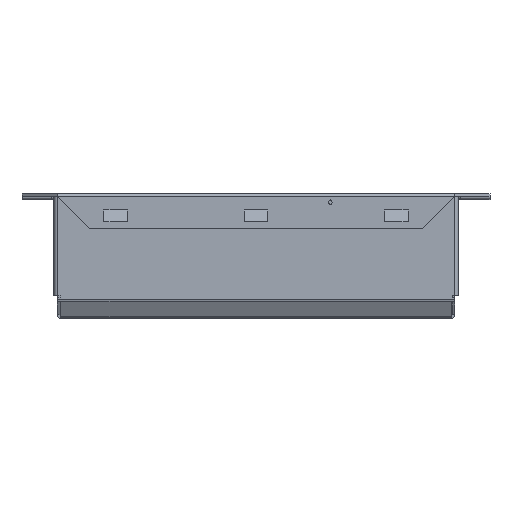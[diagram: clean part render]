
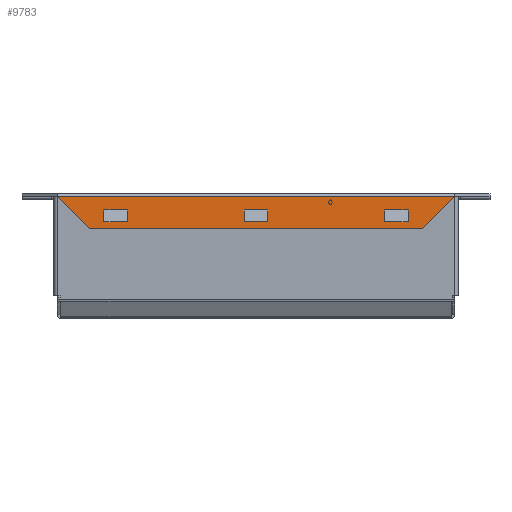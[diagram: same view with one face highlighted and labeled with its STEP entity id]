
A CAD part, front view. The second image highlights one B-rep face of the part: STEP entity #9783.
In plain terms, the highlighted planar face has unit normal (0, -1, 0).
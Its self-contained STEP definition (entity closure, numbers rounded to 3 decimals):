
#19 = VERTEX_POINT ( 'NONE', #6858 ) ;
#20 = VERTEX_POINT ( 'NONE', #6883 ) ;
#43 = VERTEX_POINT ( 'NONE', #6887 ) ;
#78 = EDGE_CURVE ( 'NONE', #20, #43, #6920, .T. ) ;
#105 = VERTEX_POINT ( 'NONE', #6981 ) ;
#236 = CARTESIAN_POINT ( 'NONE',  ( 662.267, -983.303, -4.42 ) ) ;
#1502 = VECTOR ( 'NONE', #1767, 1000. ) ;
#1767 = DIRECTION ( 'NONE',  ( -1., 0., 0. ) ) ;
#1811 = CARTESIAN_POINT ( 'NONE',  ( 681.343, -983.303, -0.787 ) ) ;
#1817 = CARTESIAN_POINT ( 'NONE',  ( 672.631, -983.303, -9.525 ) ) ;
#1824 = CARTESIAN_POINT ( 'NONE',  ( 573.342, -983.303, -0.787 ) ) ;
#1886 = DIRECTION ( 'NONE',  ( 1., 0., 0. ) ) ;
#1887 = VECTOR ( 'NONE', #1886, 1000. ) ;
#1889 = CARTESIAN_POINT ( 'NONE',  ( 681.343, -983.303, -0.787 ) ) ;
#1890 = LINE ( 'NONE', #1889, #1887 ) ;
#1896 = CARTESIAN_POINT ( 'NONE',  ( 573.342, -983.303, -0.813 ) ) ;
#1907 = CARTESIAN_POINT ( 'NONE',  ( 573.342, -983.303, -0.787 ) ) ;
#1908 = LINE ( 'NONE', #1907, #1978 ) ;
#1910 = DIRECTION ( 'NONE',  ( 1., 0., 0. ) ) ;
#1911 = VECTOR ( 'NONE', #1910, 1000. ) ;
#1913 = CARTESIAN_POINT ( 'NONE',  ( 592.417, -983.303, -4.42 ) ) ;
#1914 = LINE ( 'NONE', #1913, #1911 ) ;
#1927 = CARTESIAN_POINT ( 'NONE',  ( 681.343, -983.303, -0.813 ) ) ;
#1962 = DIRECTION ( 'NONE',  ( 1., 0., 0. ) ) ;
#1963 = VECTOR ( 'NONE', #1962, 1000. ) ;
#1964 = CARTESIAN_POINT ( 'NONE',  ( 662.267, -983.303, -4.42 ) ) ;
#1968 = LINE ( 'NONE', #1964, #1963 ) ;
#1977 = DIRECTION ( 'NONE',  ( 0., 0., 1. ) ) ;
#1978 = VECTOR ( 'NONE', #1977, 1000. ) ;
#2020 = VECTOR ( 'NONE', #2031, 1000. ) ;
#2031 = DIRECTION ( 'NONE',  ( 0.707, 0., 0.707 ) ) ;
#2283 = EDGE_CURVE ( 'NONE', #105, #19, #7317, .T. ) ;
#2997 = LINE ( 'NONE', #3043, #3057 ) ;
#3010 = CARTESIAN_POINT ( 'NONE',  ( 586.067, -983.303, -7.595 ) ) ;
#3025 = LINE ( 'NONE', #3093, #3092 ) ;
#3029 = CARTESIAN_POINT ( 'NONE',  ( 586.067, -983.303, -4.42 ) ) ;
#3043 = CARTESIAN_POINT ( 'NONE',  ( 586.067, -983.303, -4.42 ) ) ;
#3051 = CARTESIAN_POINT ( 'NONE',  ( 592.417, -983.303, -4.42 ) ) ;
#3056 = DIRECTION ( 'NONE',  ( 0., 0., 1. ) ) ;
#3057 = VECTOR ( 'NONE', #3056, 1000. ) ;
#3065 = LINE ( 'NONE', #3070, #2020 ) ;
#3070 = CARTESIAN_POINT ( 'NONE',  ( 627.355, -983.303, -54.8 ) ) ;
#3088 = CARTESIAN_POINT ( 'NONE',  ( 592.417, -983.303, -7.595 ) ) ;
#3091 = DIRECTION ( 'NONE',  ( 0., 0., -1. ) ) ;
#3092 = VECTOR ( 'NONE', #3091, 1000. ) ;
#3093 = CARTESIAN_POINT ( 'NONE',  ( 592.417, -983.303, -4.42 ) ) ;
#3126 = LINE ( 'NONE', #3185, #3183 ) ;
#3129 = DIRECTION ( 'NONE',  ( -1., 0., 0. ) ) ;
#3130 = VECTOR ( 'NONE', #3129, 1000. ) ;
#3132 = CARTESIAN_POINT ( 'NONE',  ( 662.267, -983.303, -7.595 ) ) ;
#3133 = LINE ( 'NONE', #3132, #3130 ) ;
#3182 = DIRECTION ( 'NONE',  ( 0., 0., -1. ) ) ;
#3183 = VECTOR ( 'NONE', #3182, 1000. ) ;
#3185 = CARTESIAN_POINT ( 'NONE',  ( 681.343, -983.303, -9.525 ) ) ;
#3305 = CARTESIAN_POINT ( 'NONE',  ( 624.167, -983.303, -7.595 ) ) ;
#3306 = LINE ( 'NONE', #3305, #3330 ) ;
#3327 = CARTESIAN_POINT ( 'NONE',  ( 592.417, -983.303, -7.595 ) ) ;
#3328 = LINE ( 'NONE', #3327, #1502 ) ;
#3329 = DIRECTION ( 'NONE',  ( -1., 0., 0. ) ) ;
#3330 = VECTOR ( 'NONE', #3329, 1000. ) ;
#3332 = DIRECTION ( 'NONE',  ( 1., 0., 0. ) ) ;
#3333 = VECTOR ( 'NONE', #3332, 1000. ) ;
#3334 = CARTESIAN_POINT ( 'NONE',  ( 624.167, -983.303, -4.42 ) ) ;
#3337 = LINE ( 'NONE', #3334, #3333 ) ;
#3373 = DIRECTION ( 'NONE',  ( 0.707, 0., -0.707 ) ) ;
#3374 = VECTOR ( 'NONE', #3373, 1000. ) ;
#3381 = CARTESIAN_POINT ( 'NONE',  ( 573.329, -983.303, -0.8 ) ) ;
#3382 = LINE ( 'NONE', #3381, #3374 ) ;
#3425 = AXIS2_PLACEMENT_3D ( 'NONE', #3460, #3471, #3470 ) ;
#3429 = FACE_BOUND ( 'NONE', #9778, .T. ) ;
#3437 = CARTESIAN_POINT ( 'NONE',  ( 573.342, -983.303, -9.525 ) ) ;
#3438 = LINE ( 'NONE', #3437, #3473 ) ;
#3453 = PLANE ( 'NONE',  #3425 ) ;
#3460 = CARTESIAN_POINT ( 'NONE',  ( 573.342, -983.303, -0.787 ) ) ;
#3462 = FACE_OUTER_BOUND ( 'NONE', #9691, .T. ) ;
#3464 = FACE_BOUND ( 'NONE', #8813, .T. ) ;
#3468 = DIRECTION ( 'NONE',  ( -1., 0., 0. ) ) ;
#3470 = DIRECTION ( 'NONE',  ( 0., 0., -1. ) ) ;
#3471 = DIRECTION ( 'NONE',  ( 0., -1., 0. ) ) ;
#3472 = CARTESIAN_POINT ( 'NONE',  ( 582.054, -983.303, -9.525 ) ) ;
#3473 = VECTOR ( 'NONE', #3468, 1000. ) ;
#3477 = FACE_BOUND ( 'NONE', #9619, .T. ) ;
#4898 = DIRECTION ( 'NONE',  ( 0., 0., -1. ) ) ;
#4899 = VECTOR ( 'NONE', #4898, 1000. ) ;
#4900 = CARTESIAN_POINT ( 'NONE',  ( 668.617, -983.303, -4.42 ) ) ;
#4902 = LINE ( 'NONE', #4900, #4899 ) ;
#4923 = CARTESIAN_POINT ( 'NONE',  ( 668.617, -983.303, -7.595 ) ) ;
#4934 = CARTESIAN_POINT ( 'NONE',  ( 668.617, -983.303, -4.42 ) ) ;
#4936 = DIRECTION ( 'NONE',  ( 0., 0., 1. ) ) ;
#4937 = VECTOR ( 'NONE', #4936, 1000. ) ;
#4938 = CARTESIAN_POINT ( 'NONE',  ( 662.267, -983.303, -4.42 ) ) ;
#4939 = LINE ( 'NONE', #4938, #4937 ) ;
#6267 = VERTEX_POINT ( 'NONE', #8121 ) ;
#6321 = VERTEX_POINT ( 'NONE', #236 ) ;
#6858 = CARTESIAN_POINT ( 'NONE',  ( 624.167, -983.303, -4.42 ) ) ;
#6883 = CARTESIAN_POINT ( 'NONE',  ( 630.517, -983.303, -4.42 ) ) ;
#6887 = CARTESIAN_POINT ( 'NONE',  ( 630.517, -983.303, -7.595 ) ) ;
#6920 = LINE ( 'NONE', #6970, #6969 ) ;
#6968 = DIRECTION ( 'NONE',  ( 0., 0., -1. ) ) ;
#6969 = VECTOR ( 'NONE', #6968, 1000. ) ;
#6970 = CARTESIAN_POINT ( 'NONE',  ( 630.517, -983.303, -4.42 ) ) ;
#6981 = CARTESIAN_POINT ( 'NONE',  ( 624.167, -983.303, -7.595 ) ) ;
#7317 = LINE ( 'NONE', #7370, #7369 ) ;
#7368 = DIRECTION ( 'NONE',  ( 0., 0., 1. ) ) ;
#7369 = VECTOR ( 'NONE', #7368, 1000. ) ;
#7370 = CARTESIAN_POINT ( 'NONE',  ( 624.167, -983.303, -4.42 ) ) ;
#8121 = CARTESIAN_POINT ( 'NONE',  ( 662.267, -983.303, -7.595 ) ) ;
#8745 = VERTEX_POINT ( 'NONE', #1811 ) ;
#8774 = VERTEX_POINT ( 'NONE', #1824 ) ;
#8775 = VERTEX_POINT ( 'NONE', #1817 ) ;
#8804 = VERTEX_POINT ( 'NONE', #1896 ) ;
#8808 = EDGE_CURVE ( 'NONE', #8774, #8745, #1890, .T. ) ;
#8813 = EDGE_LOOP ( 'NONE', ( #9600, #9689, #9610, #9695 ) ) ;
#8829 = EDGE_CURVE ( 'NONE', #9539, #9535, #1914, .T. ) ;
#8831 = EDGE_CURVE ( 'NONE', #8804, #8774, #1908, .T. ) ;
#8837 = EDGE_CURVE ( 'NONE', #6321, #10580, #1968, .T. ) ;
#8840 = VERTEX_POINT ( 'NONE', #1927 ) ;
#9519 = VERTEX_POINT ( 'NONE', #3010 ) ;
#9534 = EDGE_CURVE ( 'NONE', #9519, #9539, #2997, .T. ) ;
#9535 = VERTEX_POINT ( 'NONE', #3051 ) ;
#9539 = VERTEX_POINT ( 'NONE', #3029 ) ;
#9541 = EDGE_CURVE ( 'NONE', #9535, #9545, #3025, .T. ) ;
#9545 = VERTEX_POINT ( 'NONE', #3088 ) ;
#9600 = ORIENTED_EDGE ( 'NONE', *, *, #8837, .T. ) ;
#9601 = EDGE_CURVE ( 'NONE', #10586, #6267, #3133, .T. ) ;
#9608 = ORIENTED_EDGE ( 'NONE', *, *, #9686, .T. ) ;
#9610 = ORIENTED_EDGE ( 'NONE', *, *, #9601, .T. ) ;
#9611 = EDGE_CURVE ( 'NONE', #8745, #8840, #3126, .T. ) ;
#9619 = EDGE_LOOP ( 'NONE', ( #9668, #9608, #9673, #9697 ) ) ;
#9663 = ORIENTED_EDGE ( 'NONE', *, *, #8829, .T. ) ;
#9668 = ORIENTED_EDGE ( 'NONE', *, *, #2283, .T. ) ;
#9673 = ORIENTED_EDGE ( 'NONE', *, *, #78, .T. ) ;
#9685 = ORIENTED_EDGE ( 'NONE', *, *, #9688, .T. ) ;
#9686 = EDGE_CURVE ( 'NONE', #19, #20, #3337, .T. ) ;
#9687 = ORIENTED_EDGE ( 'NONE', *, *, #9534, .T. ) ;
#9688 = EDGE_CURVE ( 'NONE', #9545, #9519, #3328, .T. ) ;
#9689 = ORIENTED_EDGE ( 'NONE', *, *, #10562, .T. ) ;
#9690 = ORIENTED_EDGE ( 'NONE', *, *, #9541, .T. ) ;
#9691 = EDGE_LOOP ( 'NONE', ( #9699, #9700, #9696, #9702, #9713, #9708 ) ) ;
#9694 = EDGE_CURVE ( 'NONE', #43, #105, #3306, .T. ) ;
#9695 = ORIENTED_EDGE ( 'NONE', *, *, #10572, .T. ) ;
#9696 = ORIENTED_EDGE ( 'NONE', *, *, #9611, .F. ) ;
#9697 = ORIENTED_EDGE ( 'NONE', *, *, #9694, .T. ) ;
#9698 = EDGE_CURVE ( 'NONE', #8775, #8840, #3065, .T. ) ;
#9699 = ORIENTED_EDGE ( 'NONE', *, *, #9776, .F. ) ;
#9700 = ORIENTED_EDGE ( 'NONE', *, *, #9698, .T. ) ;
#9702 = ORIENTED_EDGE ( 'NONE', *, *, #8808, .F. ) ;
#9706 = EDGE_CURVE ( 'NONE', #8804, #9777, #3382, .T. ) ;
#9708 = ORIENTED_EDGE ( 'NONE', *, *, #9706, .T. ) ;
#9713 = ORIENTED_EDGE ( 'NONE', *, *, #8831, .F. ) ;
#9776 = EDGE_CURVE ( 'NONE', #8775, #9777, #3438, .T. ) ;
#9777 = VERTEX_POINT ( 'NONE', #3472 ) ;
#9778 = EDGE_LOOP ( 'NONE', ( #9690, #9685, #9687, #9663 ) ) ;
#9783 = ADVANCED_FACE ( 'NONE', ( #3464, #3429, #3477, #3462 ), #3453, .T. ) ;
#10562 = EDGE_CURVE ( 'NONE', #10580, #10586, #4902, .T. ) ;
#10572 = EDGE_CURVE ( 'NONE', #6267, #6321, #4939, .T. ) ;
#10580 = VERTEX_POINT ( 'NONE', #4934 ) ;
#10586 = VERTEX_POINT ( 'NONE', #4923 ) ;
